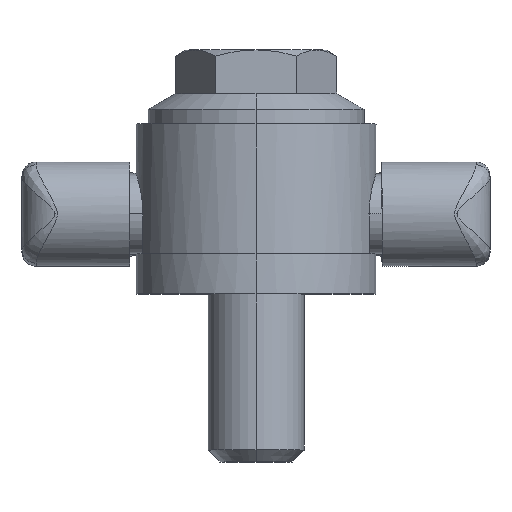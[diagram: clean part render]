
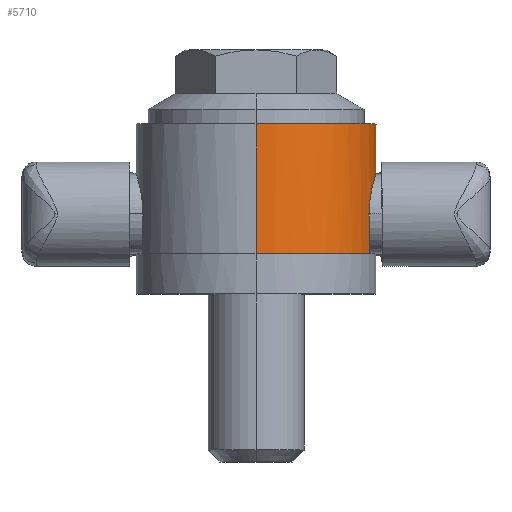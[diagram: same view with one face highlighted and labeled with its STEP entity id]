
A CAD part, top view. The second image highlights one B-rep face of the part: STEP entity #5710.
In plain terms, the highlighted cylindrical face has radius 30 mm (diameter 60 mm), a partial arc.
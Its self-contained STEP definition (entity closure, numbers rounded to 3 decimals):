
#291 = CARTESIAN_POINT ( 'NONE',  ( 28.284, 20., -10. ) ) ;
#296 = CARTESIAN_POINT ( 'NONE',  ( 28.284, 10., -10. ) ) ;
#297 = DIRECTION ( 'NONE',  ( 0., -1., 0. ) ) ;
#298 = VECTOR ( 'NONE', #297, 1000. ) ;
#299 = CARTESIAN_POINT ( 'NONE',  ( 28.284, 50., -10. ) ) ;
#300 = LINE ( 'NONE', #299, #298 ) ;
#301 = CARTESIAN_POINT ( 'NONE',  ( 0., 10., -30. ) ) ;
#302 = DIRECTION ( 'NONE',  ( 0., 0., -1. ) ) ;
#303 = DIRECTION ( 'NONE',  ( 0., -1., 0. ) ) ;
#304 = AXIS2_PLACEMENT_3D ( 'NONE', #312, #303, #302 ) ;
#305 = CIRCLE ( 'NONE', #304, 30. ) ;
#312 = CARTESIAN_POINT ( 'NONE',  ( 0., 10., 0. ) ) ;
#320 = CARTESIAN_POINT ( 'NONE',  ( 28.464, 23.247, -9.48 ) ) ;
#321 = CARTESIAN_POINT ( 'NONE',  ( 28.626, 24.45, -8.979 ) ) ;
#322 = CARTESIAN_POINT ( 'NONE',  ( 28.724, 25.034, -8.665 ) ) ;
#323 = CARTESIAN_POINT ( 'NONE',  ( 28.933, 26.113, -7.94 ) ) ;
#324 = CARTESIAN_POINT ( 'NONE',  ( 29.044, 26.613, -7.53 ) ) ;
#325 = CARTESIAN_POINT ( 'NONE',  ( 29.211, 27.303, -6.839 ) ) ;
#326 = CARTESIAN_POINT ( 'NONE',  ( 29.267, 27.524, -6.595 ) ) ;
#327 = CARTESIAN_POINT ( 'NONE',  ( 29.376, 27.937, -6.091 ) ) ;
#328 = CARTESIAN_POINT ( 'NONE',  ( 29.429, 28.131, -5.83 ) ) ;
#329 = CARTESIAN_POINT ( 'NONE',  ( 29.531, 28.492, -5.291 ) ) ;
#330 = CARTESIAN_POINT ( 'NONE',  ( 29.58, 28.659, -5.013 ) ) ;
#331 = CARTESIAN_POINT ( 'NONE',  ( 29.671, 28.967, -4.438 ) ) ;
#332 = CARTESIAN_POINT ( 'NONE',  ( 29.715, 29.109, -4.14 ) ) ;
#333 = CARTESIAN_POINT ( 'NONE',  ( 29.832, 29.488, -3.227 ) ) ;
#334 = CARTESIAN_POINT ( 'NONE',  ( 29.894, 29.678, -2.601 ) ) ;
#335 = CARTESIAN_POINT ( 'NONE',  ( 29.978, 29.935, -1.315 ) ) ;
#336 = CARTESIAN_POINT ( 'NONE',  ( 30., 30.001, -0.647 ) ) ;
#337 = CARTESIAN_POINT ( 'NONE',  ( 30., 29.999, 0.668 ) ) ;
#338 = CARTESIAN_POINT ( 'NONE',  ( 29.978, 29.934, 1.32 ) ) ;
#339 = CARTESIAN_POINT ( 'NONE',  ( 29.914, 29.74, 2.29 ) ) ;
#340 = CARTESIAN_POINT ( 'NONE',  ( 29.888, 29.658, 2.613 ) ) ;
#341 = CARTESIAN_POINT ( 'NONE',  ( 29.826, 29.466, 3.241 ) ) ;
#342 = CARTESIAN_POINT ( 'NONE',  ( 29.791, 29.355, 3.548 ) ) ;
#343 = CARTESIAN_POINT ( 'NONE',  ( 29.674, 28.979, 4.449 ) ) ;
#344 = CARTESIAN_POINT ( 'NONE',  ( 29.582, 28.672, 5.023 ) ) ;
#345 = CARTESIAN_POINT ( 'NONE',  ( 29.376, 27.94, 6.114 ) ) ;
#346 = CARTESIAN_POINT ( 'NONE',  ( 29.266, 27.528, 6.614 ) ) ;
#347 = CARTESIAN_POINT ( 'NONE',  ( 29.099, 26.841, 7.301 ) ) ;
#348 = CARTESIAN_POINT ( 'NONE',  ( 29.043, 26.601, 7.519 ) ) ;
#349 = CARTESIAN_POINT ( 'NONE',  ( 28.933, 26.097, 7.933 ) ) ;
#350 = CARTESIAN_POINT ( 'NONE',  ( 28.878, 25.833, 8.129 ) ) ;
#351 = CARTESIAN_POINT ( 'NONE',  ( 28.722, 25.021, 8.673 ) ) ;
#352 = CARTESIAN_POINT ( 'NONE',  ( 28.626, 24.449, 8.98 ) ) ;
#353 = CARTESIAN_POINT ( 'NONE',  ( 28.504, 23.543, 9.357 ) ) ;
#354 = CARTESIAN_POINT ( 'NONE',  ( 28.466, 23.231, 9.469 ) ) ;
#355 = CARTESIAN_POINT ( 'NONE',  ( 28.402, 22.6, 9.662 ) ) ;
#356 = CARTESIAN_POINT ( 'NONE',  ( 28.374, 22.282, 9.742 ) ) ;
#357 = CARTESIAN_POINT ( 'NONE',  ( 28.308, 21.319, 9.934 ) ) ;
#358 = CARTESIAN_POINT ( 'NONE',  ( 28.284, 20.666, 10. ) ) ;
#359 = CARTESIAN_POINT ( 'NONE',  ( 28.284, 20., 10. ) ) ;
#360 = B_SPLINE_CURVE_WITH_KNOTS ( 'NONE', 3,
 ( #359, #358, #357, #356, #355, #354, #353, #352, #351, #350, #349, #348, #347, #346, #345, #344, #343, #342, #341, #340, #339, #338, #337, #336, #335, #334, #333, #332, #331, #330, #329, #328, #327, #326, #325, #324, #323, #322, #321, #320, #3409, #3406, #3414, #3412, #3418, #3422 ),
 .UNSPECIFIED., .F., .F.,
 ( 4, 2, 2, 2, 2, 2, 2, 2, 2, 2, 2, 2, 2, 2, 2, 2, 2, 2, 2, 2, 2, 2, 4 ),
 ( 0., 0.002, 0.003, 0.004, 0.006, 0.007, 0.008, 0.01, 0.012, 0.013, 0.014, 0.016, 0.018, 0.02, 0.021, 0.022, 0.023, 0.024, 0.026, 0.028, 0.03, 0.03, 0.031 ),
 .UNSPECIFIED. ) ;
#1778 = EDGE_CURVE ( 'NONE', #5713, #5687, #2736, .T. ) ;
#2733 = DIRECTION ( 'NONE',  ( 0., -1., 0. ) ) ;
#2734 = VECTOR ( 'NONE', #2733, 1000. ) ;
#2735 = CARTESIAN_POINT ( 'NONE',  ( 0., 50., -30. ) ) ;
#2736 = LINE ( 'NONE', #2735, #2734 ) ;
#3406 = CARTESIAN_POINT ( 'NONE',  ( 28.331, 21.654, -9.868 ) ) ;
#3409 = CARTESIAN_POINT ( 'NONE',  ( 28.398, 22.624, -9.672 ) ) ;
#3412 = CARTESIAN_POINT ( 'NONE',  ( 28.29, 20.664, -9.983 ) ) ;
#3414 = CARTESIAN_POINT ( 'NONE',  ( 28.313, 21.324, -9.917 ) ) ;
#3418 = CARTESIAN_POINT ( 'NONE',  ( 28.284, 20.333, -10. ) ) ;
#3422 = CARTESIAN_POINT ( 'NONE',  ( 28.284, 20., -10. ) ) ;
#5685 = ORIENTED_EDGE ( 'NONE', *, *, #1778, .F. ) ;
#5686 = EDGE_CURVE ( 'NONE', #5687, #5689, #305, .T. ) ;
#5687 = VERTEX_POINT ( 'NONE', #301 ) ;
#5688 = EDGE_CURVE ( 'NONE', #5694, #5689, #300, .T. ) ;
#5689 = VERTEX_POINT ( 'NONE', #296 ) ;
#5690 = ORIENTED_EDGE ( 'NONE', *, *, #5686, .F. ) ;
#5691 = ORIENTED_EDGE ( 'NONE', *, *, #5688, .T. ) ;
#5693 = ORIENTED_EDGE ( 'NONE', *, *, #5695, .T. ) ;
#5694 = VERTEX_POINT ( 'NONE', #291 ) ;
#5695 = EDGE_CURVE ( 'NONE', #5696, #5694, #360, .T. ) ;
#5696 = VERTEX_POINT ( 'NONE', #6266 ) ;
#5697 = EDGE_CURVE ( 'NONE', #5699, #5696, #6265, .T. ) ;
#5698 = ORIENTED_EDGE ( 'NONE', *, *, #5697, .T. ) ;
#5699 = VERTEX_POINT ( 'NONE', #6261 ) ;
#5703 = EDGE_CURVE ( 'NONE', #5699, #5712, #6255, .T. ) ;
#5705 = EDGE_CURVE ( 'NONE', #5708, #5712, #6245, .T. ) ;
#5707 = EDGE_CURVE ( 'NONE', #5708, #5713, #6241, .T. ) ;
#5708 = VERTEX_POINT ( 'NONE', #6295 ) ;
#5709 = ORIENTED_EDGE ( 'NONE', *, *, #5707, .F. ) ;
#5710 = ADVANCED_FACE ( 'NONE', ( #6294 ), #6293, .T. ) ;
#5711 = ORIENTED_EDGE ( 'NONE', *, *, #5705, .T. ) ;
#5712 = VERTEX_POINT ( 'NONE', #6291 ) ;
#5713 = VERTEX_POINT ( 'NONE', #6287 ) ;
#5716 = EDGE_LOOP ( 'NONE', ( #5709, #5711, #5717, #5698, #5693, #5691, #5690, #5685 ) ) ;
#5717 = ORIENTED_EDGE ( 'NONE', *, *, #5703, .F. ) ;
#6238 = DIRECTION ( 'NONE',  ( 0., 1., 0. ) ) ;
#6239 = CARTESIAN_POINT ( 'NONE',  ( 0., 42.5, 0. ) ) ;
#6240 = AXIS2_PLACEMENT_3D ( 'NONE', #6239, #6238, #6296 ) ;
#6241 = CIRCLE ( 'NONE', #6240, 30. ) ;
#6242 = DIRECTION ( 'NONE',  ( 0., -1., 0. ) ) ;
#6243 = VECTOR ( 'NONE', #6242, 1000. ) ;
#6244 = CARTESIAN_POINT ( 'NONE',  ( 0., 50., 30. ) ) ;
#6245 = LINE ( 'NONE', #6244, #6243 ) ;
#6251 = DIRECTION ( 'NONE',  ( 0., 0., -1. ) ) ;
#6252 = DIRECTION ( 'NONE',  ( 0., -1., 0. ) ) ;
#6253 = CARTESIAN_POINT ( 'NONE',  ( 0., 10., 0. ) ) ;
#6254 = AXIS2_PLACEMENT_3D ( 'NONE', #6253, #6252, #6251 ) ;
#6255 = CIRCLE ( 'NONE', #6254, 30. ) ;
#6261 = CARTESIAN_POINT ( 'NONE',  ( 28.284, 10., 10. ) ) ;
#6262 = DIRECTION ( 'NONE',  ( 0., 1., 0. ) ) ;
#6263 = VECTOR ( 'NONE', #6262, 1000. ) ;
#6264 = CARTESIAN_POINT ( 'NONE',  ( 28.284, 50., 10. ) ) ;
#6265 = LINE ( 'NONE', #6264, #6263 ) ;
#6266 = CARTESIAN_POINT ( 'NONE',  ( 28.284, 20., 10. ) ) ;
#6287 = CARTESIAN_POINT ( 'NONE',  ( 0., 42.5, -30. ) ) ;
#6288 = DIRECTION ( 'NONE',  ( 0., 0., -1. ) ) ;
#6289 = DIRECTION ( 'NONE',  ( 0., -1., 0. ) ) ;
#6290 = AXIS2_PLACEMENT_3D ( 'NONE', #6292, #6289, #6288 ) ;
#6291 = CARTESIAN_POINT ( 'NONE',  ( 0., 10., 30. ) ) ;
#6292 = CARTESIAN_POINT ( 'NONE',  ( 0., 50., 0. ) ) ;
#6293 = CYLINDRICAL_SURFACE ( 'NONE', #6290, 30. ) ;
#6294 = FACE_OUTER_BOUND ( 'NONE', #5716, .T. ) ;
#6295 = CARTESIAN_POINT ( 'NONE',  ( 0., 42.5, 30. ) ) ;
#6296 = DIRECTION ( 'NONE',  ( 0., 0., 1. ) ) ;
